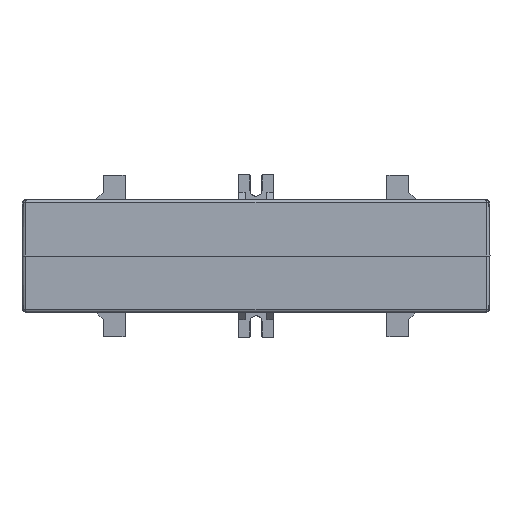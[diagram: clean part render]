
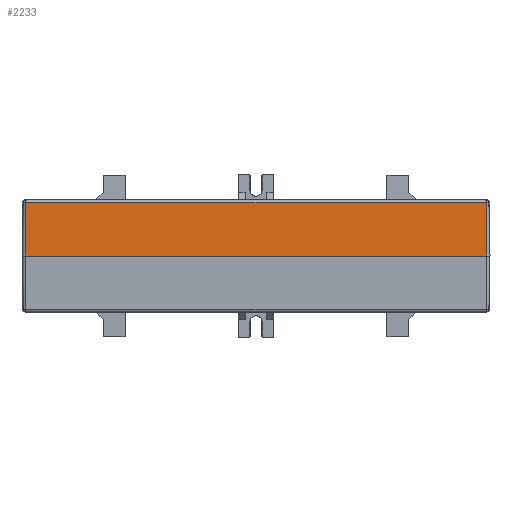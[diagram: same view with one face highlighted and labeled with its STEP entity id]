
A CAD part, front view. The second image highlights one B-rep face of the part: STEP entity #2233.
In plain terms, the highlighted planar face has unit normal (0, -1, 0.009).
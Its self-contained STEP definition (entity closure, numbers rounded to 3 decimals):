
#2233=ADVANCED_FACE('',(#4329),#3216,.F.);
#3216=PLANE('',#25082);
#4329=FACE_OUTER_BOUND('',#5602,.T.);
#5602=EDGE_LOOP('',(#11162,#11163,#11164,#11165));
#11162=ORIENTED_EDGE('',*,*,#17642,.F.);
#11163=ORIENTED_EDGE('',*,*,#17678,.T.);
#11164=ORIENTED_EDGE('',*,*,#17418,.T.);
#11165=ORIENTED_EDGE('',*,*,#17676,.F.);
#14346=VERTEX_POINT('',#37400);
#14350=VERTEX_POINT('',#37426);
#14490=VERTEX_POINT('',#37900);
#14494=VERTEX_POINT('',#37926);
#17418=EDGE_CURVE('',#14350,#14346,#20298,.T.);
#17642=EDGE_CURVE('',#14494,#14490,#20481,.T.);
#17676=EDGE_CURVE('',#14490,#14346,#20515,.T.);
#17678=EDGE_CURVE('',#14494,#14350,#20517,.T.);
#20298=LINE('',#37425,#23003);
#20481=LINE('',#37927,#23186);
#20515=LINE('',#37992,#23220);
#20517=LINE('',#37995,#23222);
#23003=VECTOR('',#29864,1.);
#23186=VECTOR('',#30281,1.);
#23220=VECTOR('',#30345,1.);
#23222=VECTOR('',#30349,1.);
#25082=AXIS2_PLACEMENT_3D('',#37996,#30350,#30351);
#29864=DIRECTION('',(-0.009,0.009,1.));
#30281=DIRECTION('',(0.009,0.009,1.));
#30345=DIRECTION('',(1.,0.,0.));
#30349=DIRECTION('',(1.,0.,0.));
#30350=DIRECTION('',(0.,1.,-0.009));
#30351=DIRECTION('',(0.,0.009,1.));
#37400=CARTESIAN_POINT('',(73.812,-107.793,16.953));
#37425=CARTESIAN_POINT('',(73.96,-107.942,-0.056));
#37426=CARTESIAN_POINT('',(73.96,-107.942,-0.056));
#37900=CARTESIAN_POINT('',(-73.812,-107.793,16.953));
#37926=CARTESIAN_POINT('',(-73.96,-107.942,-0.056));
#37927=CARTESIAN_POINT('',(-73.96,-107.942,-0.056));
#37992=CARTESIAN_POINT('',(-113.644,-107.793,16.953));
#37995=CARTESIAN_POINT('',(-113.644,-107.942,-0.056));
#37996=CARTESIAN_POINT('',(-113.644,-107.942,-0.056));
